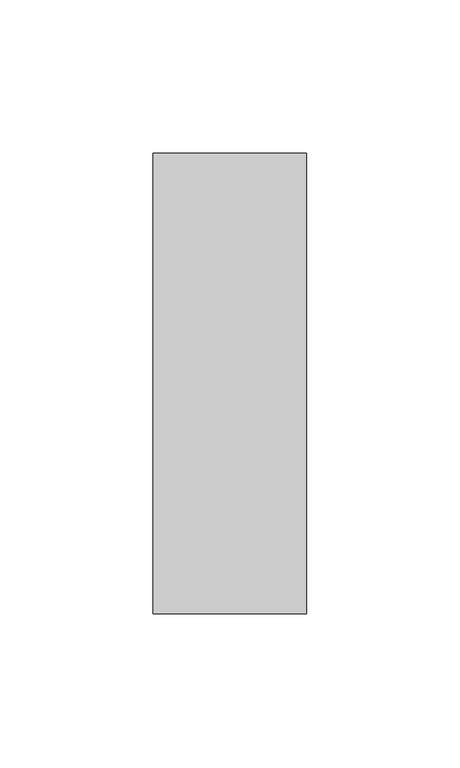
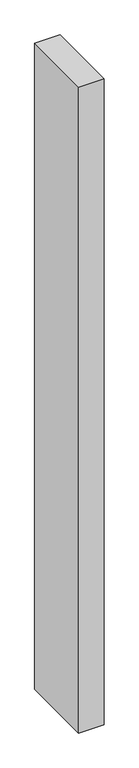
"""IFC4 building model written with IfcOpenShell, lengths in millimetres: member geometry, Прямоугольный импост : 50 x 150 мм."""

from ifc_helpers import new_model, si_unit, frame, origin, place, context, project, spatial, polyline, outline, extrude, source, transform, mapped, element, save


def member_180b6f78(model_context):
    return source(origin(), model_context, "Body", "SweptSolid", [
        extrude(outline(polyline([(25.0, 75.0), (25.0, -75.0), (-25.0, -75.0), (-25.0, 75.0), (25.0, 75.0)])), frame((0.0, 0.0, -1343.4474667), z_axis=(0.0, 0.0, 1.0), x_axis=(1.0, 0.0, 0.0)), (0.0, 0.0, 1.0), 1343.4474667),
    ])


if __name__ == "__main__":
    model = new_model("IFC4")
    model_context = context("Model", 3, world=origin())
    ifc_project = project(units=[si_unit("LENGTHUNIT", "METRE", prefix="MILLI")], contexts=[model_context])
    site = spatial("IfcSite", under=ifc_project)
    building = spatial("IfcBuilding", under=site)
    placement = place(None, origin())
    member_shape = member_180b6f78(model_context)
    element("IfcMember", 1, ObjectType="Прямоугольный импост : 50 x 150 мм", at=placement, inside=building, context=model_context, shape_type="MappedRepresentation", body=[
        mapped(member_shape, transform((0.0, 0.0, 0.0), x_axis=(1.0, 0.0, 0.0), y_axis=(0.0, 1.0, 0.0), z_axis=(0.0, 0.0, 1.0))),
    ])
    save(model, "model.ifc")
